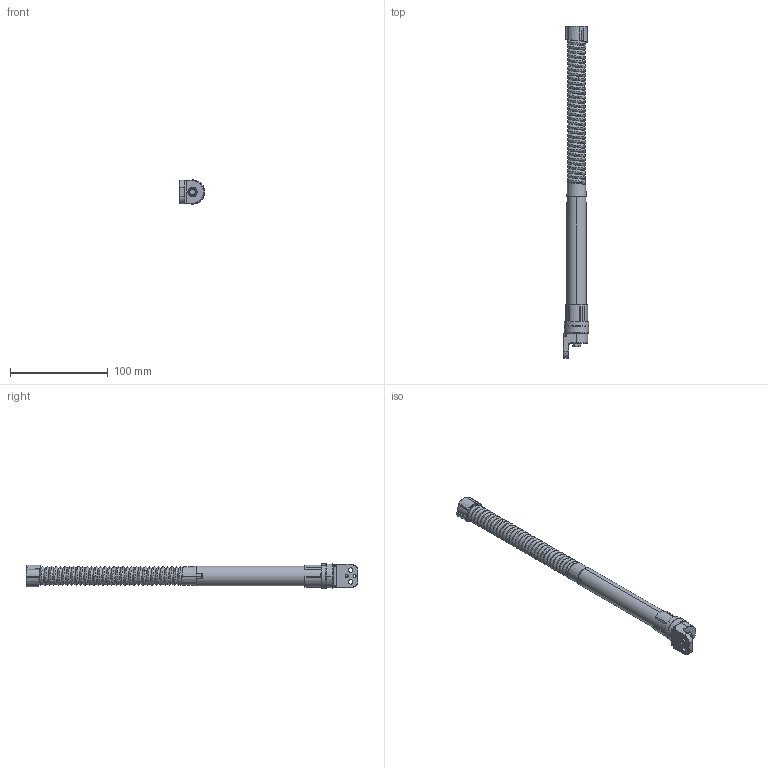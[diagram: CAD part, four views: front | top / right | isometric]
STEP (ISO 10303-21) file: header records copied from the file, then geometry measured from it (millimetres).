
FILE_DESCRIPTION((''),'2;1');
FILE_NAME('B000-00-051_SW0001','2022-12-12T',('PBohnert'),(''),'CREO PARAMETRIC BY PTC INC, 2017020','CREO PARAMETRIC BY PTC INC, 2017020','');
FILE_SCHEMA(('AUTOMOTIVE_DESIGN { 1 0 10303 214 1 1 1 1 }'));
Products named in the file (1): B000-00-051_SW0001
Bounding box: 25.79 x 338.9 x 24.68 mm (x, y, z)
Volume: 54705.3 mm3; surface area: 49919.7 mm2
Topology: 1 solids, 2 shells, 803 faces, 1943 edges, 1165 vertices
Faces by surface type: cylinder 242, bspline 199, plane 189, torus 91, cone 64, sphere 18
Entity records: 70141 total; most frequent: CARTESIAN_POINT 40275, ORIENTED_EDGE 3878, DIRECTION 3359, PRESENTATION_STYLE_ASSIGNMENT 2747, STYLED_ITEM 1944, CURVE_STYLE 1943, EDGE_CURVE 1939, AXIS2_PLACEMENT_3D 1369
